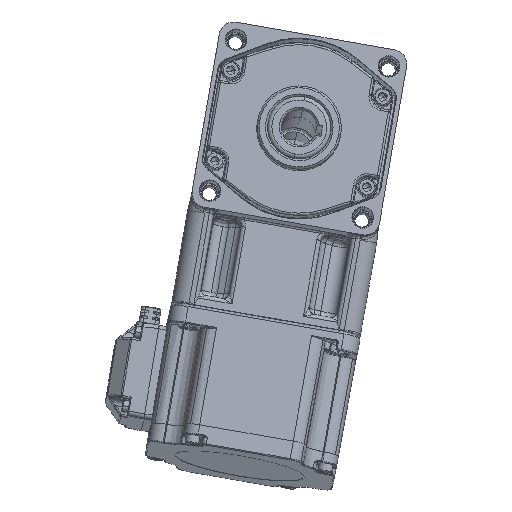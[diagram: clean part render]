
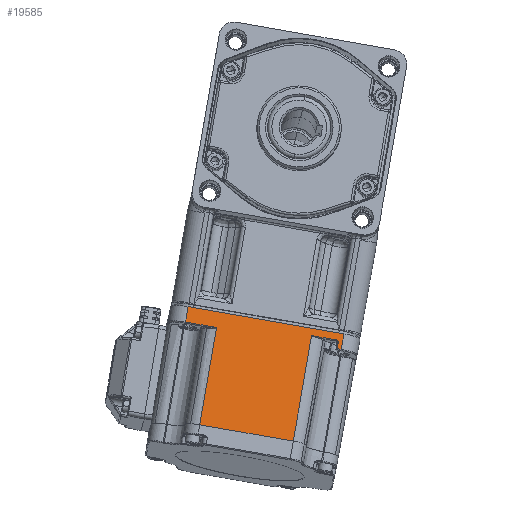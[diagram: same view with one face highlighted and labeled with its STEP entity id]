
A CAD part, front view. The second image highlights one B-rep face of the part: STEP entity #19585.
In plain terms, the highlighted planar face has unit normal (0.034, -0.989, 0.144) as drawn and (-1, 0, 0.009) by its records, which use the part's own axes.
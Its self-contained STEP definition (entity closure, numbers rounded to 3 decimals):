
#464 = VECTOR ( 'NONE', #36571, 1000. ) ;
#518 = CARTESIAN_POINT ( 'NONE',  ( 478.58, 213.49, 7.504 ) ) ;
#1223 = ORIENTED_EDGE ( 'NONE', *, *, #47442, .T. ) ;
#1615 = ORIENTED_EDGE ( 'NONE', *, *, #57118, .T. ) ;
#1843 = LINE ( 'NONE', #31837, #11864 ) ;
#2126 = EDGE_CURVE ( 'NONE', #86169, #86564, #1843, .T. ) ;
#2252 = EDGE_CURVE ( 'NONE', #90286, #68160, #49519, .T. ) ;
#4141 =( BOUNDED_CURVE ( )  B_SPLINE_CURVE ( 3, ( #79606, #72560, #43998, #71628 ),
 .UNSPECIFIED., .F., .F. ) 
 B_SPLINE_CURVE_WITH_KNOTS ( ( 4, 4 ),
 ( 3.142, 4.686 ),
 .UNSPECIFIED. ) 
 CURVE ( )  GEOMETRIC_REPRESENTATION_ITEM ( )  RATIONAL_B_SPLINE_CURVE ( ( 1., 0.811, 0.811, 1. ) ) 
 REPRESENTATION_ITEM ( '' )  );
#4899 = B_SPLINE_CURVE_WITH_KNOTS ( 'NONE', 3,
 ( #31219, #73451, #44421, #45341 ),
 .UNSPECIFIED., .F., .F.,
 ( 4, 4 ),
 ( 0., 1. ),
 .UNSPECIFIED. ) ;
#5233 = EDGE_CURVE ( 'NONE', #21912, #61921, #68469, .T. ) ;
#6680 = VERTEX_POINT ( 'NONE', #31276 ) ;
#7225 = VECTOR ( 'NONE', #38083, 1000. ) ;
#7256 = VERTEX_POINT ( 'NONE', #54056 ) ;
#7566 = CARTESIAN_POINT ( 'NONE',  ( 478.584, 155.345, 8. ) ) ;
#7937 = CARTESIAN_POINT ( 'NONE',  ( 478.584, 155.41, 8. ) ) ;
#8849 = CARTESIAN_POINT ( 'NONE',  ( 478.545, 212.411, 3.504 ) ) ;
#10496 = CARTESIAN_POINT ( 'NONE',  ( 478.992, 177.898, 54.8 ) ) ;
#11181 = CARTESIAN_POINT ( 'NONE',  ( 478.549, 200.436, 4. ) ) ;
#11280 = CARTESIAN_POINT ( 'NONE',  ( 478.58, 215.311, 7.504 ) ) ;
#11864 = VECTOR ( 'NONE', #89056, 1000. ) ;
#12080 = LINE ( 'NONE', #91315, #67139 ) ;
#12558 = ORIENTED_EDGE ( 'NONE', *, *, #17693, .T. ) ;
#13471 = CARTESIAN_POINT ( 'NONE',  ( 478.549, 200.402, 4. ) ) ;
#14599 = B_SPLINE_CURVE_WITH_KNOTS ( 'NONE', 1,
 ( #50166, #79216 ),
 .UNSPECIFIED., .F., .F.,
 ( 2, 2 ),
 ( 0., 1. ),
 .UNSPECIFIED. ) ;
#15006 = LINE ( 'NONE', #71746, #464 ) ;
#16136 = FACE_OUTER_BOUND ( 'NONE', #26742, .T. ) ;
#16152 = CARTESIAN_POINT ( 'NONE',  ( 479., 214.895, 55.623 ) ) ;
#16582 = CARTESIAN_POINT ( 'NONE',  ( 478.997, 177.898, 55.3 ) ) ;
#16600 = LINE ( 'NONE', #16152, #89743 ) ;
#17693 = EDGE_CURVE ( 'NONE', #19437, #7256, #12080, .T. ) ;
#17711 = CARTESIAN_POINT ( 'NONE',  ( 478.548, 200.436, 3.835 ) ) ;
#19437 = VERTEX_POINT ( 'NONE', #85114 ) ;
#19585 = ADVANCED_FACE ( 'NONE', ( #16136 ), #37247, .T. ) ;
#20271 = VERTEX_POINT ( 'NONE', #75925 ) ;
#20591 = ORIENTED_EDGE ( 'NONE', *, *, #2252, .T. ) ;
#21893 = CARTESIAN_POINT ( 'NONE',  ( 478.549, 200.436, 4. ) ) ;
#21912 = VERTEX_POINT ( 'NONE', #518 ) ;
#22320 = VERTEX_POINT ( 'NONE', #13471 ) ;
#25281 = VECTOR ( 'NONE', #39363, 1000. ) ;
#26742 = EDGE_LOOP ( 'NONE', ( #1223, #35044, #58562, #20591, #30433, #12558, #63330, #84263, #89429, #59721, #59476, #65401, #45700, #1615, #46858 ) ) ;
#28639 = CARTESIAN_POINT ( 'NONE',  ( 478.553, 213.41, 4.478 ) ) ;
#30288 = EDGE_CURVE ( 'NONE', #6680, #20271, #15006, .T. ) ;
#30433 = ORIENTED_EDGE ( 'NONE', *, *, #69710, .F. ) ;
#30573 = LINE ( 'NONE', #74180, #7225 ) ;
#31219 = CARTESIAN_POINT ( 'NONE',  ( 478.549, 200.402, 4. ) ) ;
#31276 = CARTESIAN_POINT ( 'NONE',  ( 478.514, 215.381, 0. ) ) ;
#31837 = CARTESIAN_POINT ( 'NONE',  ( 478.545, 212.411, 3.504 ) ) ;
#32596 = CARTESIAN_POINT ( 'NONE',  ( 478.992, 155.408, 54.802 ) ) ;
#32715 = CARTESIAN_POINT ( 'NONE',  ( 478.546, 200.436, 3.67 ) ) ;
#35044 = ORIENTED_EDGE ( 'NONE', *, *, #30288, .T. ) ;
#36571 = DIRECTION ( 'NONE',  ( 0., -1., 0. ) ) ;
#37247 = PLANE ( 'NONE',  #41476 ) ;
#38083 = DIRECTION ( 'NONE',  ( -0.009, -0.009, -1. ) ) ;
#39363 = DIRECTION ( 'NONE',  ( 0., 1., 0. ) ) ;
#41476 = AXIS2_PLACEMENT_3D ( 'NONE', #16582, #59264, #81768 ) ;
#43800 = CARTESIAN_POINT ( 'NONE',  ( 478.58, 215.315, 7.504 ) ) ;
#43998 = CARTESIAN_POINT ( 'NONE',  ( 478.548, 213.395, 3.905 ) ) ;
#44421 = CARTESIAN_POINT ( 'NONE',  ( 478.549, 200.424, 4. ) ) ;
#45341 = CARTESIAN_POINT ( 'NONE',  ( 478.549, 200.436, 4. ) ) ;
#45700 = ORIENTED_EDGE ( 'NONE', *, *, #80067, .T. ) ;
#46376 = CARTESIAN_POINT ( 'NONE',  ( 478.545, 200.436, 3.504 ) ) ;
#46858 = ORIENTED_EDGE ( 'NONE', *, *, #5233, .T. ) ;
#47442 = EDGE_CURVE ( 'NONE', #61921, #6680, #16600, .T. ) ;
#49519 = LINE ( 'NONE', #78108, #25281 ) ;
#50166 = CARTESIAN_POINT ( 'NONE',  ( 478.992, 200.403, 54.802 ) ) ;
#50400 = B_SPLINE_CURVE_WITH_KNOTS ( 'NONE', 1,
 ( #7566, #78382 ),
 .UNSPECIFIED., .F., .F.,
 ( 2, 2 ),
 ( 0., 1. ),
 .UNSPECIFIED. ) ;
#50678 = LINE ( 'NONE', #72231, #84829 ) ;
#52402 = EDGE_CURVE ( 'NONE', #65761, #7256, #76670, .T. ) ;
#53690 = CARTESIAN_POINT ( 'NONE',  ( 478.58, 155.345, 7.504 ) ) ;
#54056 = CARTESIAN_POINT ( 'NONE',  ( 478.584, 155.41, 8. ) ) ;
#57118 = EDGE_CURVE ( 'NONE', #80581, #21912, #50678, .T. ) ;
#57415 = VECTOR ( 'NONE', #88806, 1000. ) ;
#58085 = EDGE_CURVE ( 'NONE', #22320, #80039, #4899, .T. ) ;
#58562 = ORIENTED_EDGE ( 'NONE', *, *, #80395, .F. ) ;
#59264 = DIRECTION ( 'NONE',  ( -1., 0., 0.009 ) ) ;
#59285 = DIRECTION ( 'NONE',  ( -0.009, 0.009, -1. ) ) ;
#59476 = ORIENTED_EDGE ( 'NONE', *, *, #87691, .T. ) ;
#59721 = ORIENTED_EDGE ( 'NONE', *, *, #58085, .T. ) ;
#60745 = CARTESIAN_POINT ( 'NONE',  ( 478.58, 140.48, 7.504 ) ) ;
#61921 = VERTEX_POINT ( 'NONE', #43800 ) ;
#63330 = ORIENTED_EDGE ( 'NONE', *, *, #52402, .F. ) ;
#63521 = B_SPLINE_CURVE_WITH_KNOTS ( 'NONE', 3,
 ( #11181, #17711, #32715, #46376 ),
 .UNSPECIFIED., .F., .F.,
 ( 4, 4 ),
 ( 0., 1. ),
 .UNSPECIFIED. ) ;
#65401 = ORIENTED_EDGE ( 'NONE', *, *, #2126, .T. ) ;
#65761 = VERTEX_POINT ( 'NONE', #32596 ) ;
#67139 = VECTOR ( 'NONE', #92696, 1000. ) ;
#67505 = CARTESIAN_POINT ( 'NONE',  ( 478.992, 200.403, 54.802 ) ) ;
#68160 = VERTEX_POINT ( 'NONE', #53690 ) ;
#68469 = LINE ( 'NONE', #11280, #83561 ) ;
#69710 = EDGE_CURVE ( 'NONE', #19437, #68160, #50400, .T. ) ;
#71628 = CARTESIAN_POINT ( 'NONE',  ( 478.553, 213.41, 4.478 ) ) ;
#71746 = CARTESIAN_POINT ( 'NONE',  ( 478.514, 177.898, 0. ) ) ;
#72231 = CARTESIAN_POINT ( 'NONE',  ( 478.988, 214.716, 54.336 ) ) ;
#72560 = CARTESIAN_POINT ( 'NONE',  ( 478.545, 212.985, 3.504 ) ) ;
#73451 = CARTESIAN_POINT ( 'NONE',  ( 478.549, 200.413, 4. ) ) ;
#74131 = DIRECTION ( 'NONE',  ( 0.009, 0.026, 1. ) ) ;
#74180 = CARTESIAN_POINT ( 'NONE',  ( 479., 140.9, 55.623 ) ) ;
#75925 = CARTESIAN_POINT ( 'NONE',  ( 478.514, 140.415, 0. ) ) ;
#76670 = B_SPLINE_CURVE_WITH_KNOTS ( 'NONE', 1,
 ( #86227, #7937 ),
 .UNSPECIFIED., .F., .F.,
 ( 2, 2 ),
 ( 0., 1. ),
 .UNSPECIFIED. ) ;
#78108 = CARTESIAN_POINT ( 'NONE',  ( 478.58, 155.345, 7.504 ) ) ;
#78382 = CARTESIAN_POINT ( 'NONE',  ( 478.58, 155.345, 7.504 ) ) ;
#78651 = VERTEX_POINT ( 'NONE', #67505 ) ;
#79216 = CARTESIAN_POINT ( 'NONE',  ( 478.549, 200.402, 4. ) ) ;
#79606 = CARTESIAN_POINT ( 'NONE',  ( 478.545, 212.411, 3.504 ) ) ;
#79776 = CARTESIAN_POINT ( 'NONE',  ( 478.545, 200.436, 3.504 ) ) ;
#79920 = LINE ( 'NONE', #10496, #57415 ) ;
#80039 = VERTEX_POINT ( 'NONE', #21893 ) ;
#80067 = EDGE_CURVE ( 'NONE', #86564, #80581, #4141, .T. ) ;
#80395 = EDGE_CURVE ( 'NONE', #90286, #20271, #30573, .T. ) ;
#80581 = VERTEX_POINT ( 'NONE', #28639 ) ;
#81768 = DIRECTION ( 'NONE',  ( 0., 1., 0. ) ) ;
#83000 = DIRECTION ( 'NONE',  ( 0., 1., 0. ) ) ;
#83561 = VECTOR ( 'NONE', #83000, 1000. ) ;
#83969 = EDGE_CURVE ( 'NONE', #78651, #22320, #14599, .T. ) ;
#84263 = ORIENTED_EDGE ( 'NONE', *, *, #91233, .T. ) ;
#84829 = VECTOR ( 'NONE', #74131, 1000. ) ;
#85114 = CARTESIAN_POINT ( 'NONE',  ( 478.584, 155.345, 8. ) ) ;
#86169 = VERTEX_POINT ( 'NONE', #79776 ) ;
#86227 = CARTESIAN_POINT ( 'NONE',  ( 478.992, 155.408, 54.802 ) ) ;
#86564 = VERTEX_POINT ( 'NONE', #8849 ) ;
#87691 = EDGE_CURVE ( 'NONE', #80039, #86169, #63521, .T. ) ;
#88806 = DIRECTION ( 'NONE',  ( 0., 1., 0. ) ) ;
#89056 = DIRECTION ( 'NONE',  ( 0., 1., 0. ) ) ;
#89429 = ORIENTED_EDGE ( 'NONE', *, *, #83969, .T. ) ;
#89743 = VECTOR ( 'NONE', #59285, 1000. ) ;
#90286 = VERTEX_POINT ( 'NONE', #60745 ) ;
#91233 = EDGE_CURVE ( 'NONE', #65761, #78651, #79920, .T. ) ;
#91315 = CARTESIAN_POINT ( 'NONE',  ( 478.584, 214.898, 8. ) ) ;
#92696 = DIRECTION ( 'NONE',  ( 0., 1., 0. ) ) ;
